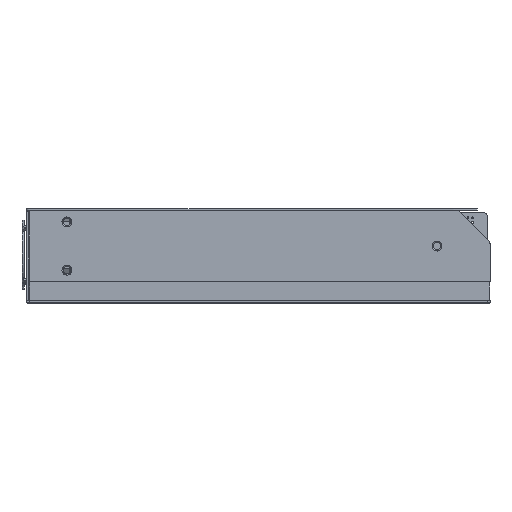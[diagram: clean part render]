
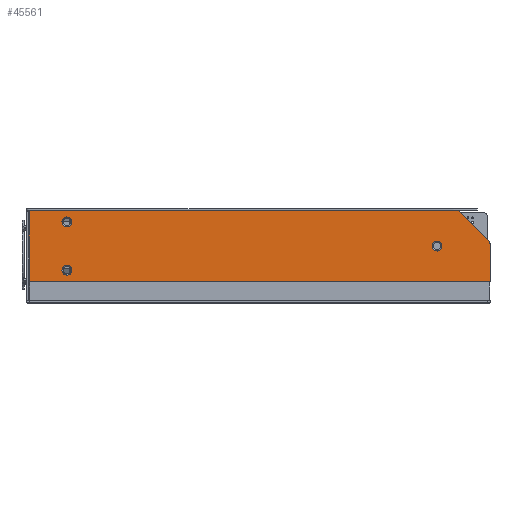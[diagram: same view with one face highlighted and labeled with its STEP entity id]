
A CAD part, top view. The second image highlights one B-rep face of the part: STEP entity #45561.
In plain terms, the highlighted planar face has unit normal (0, 0, 1).
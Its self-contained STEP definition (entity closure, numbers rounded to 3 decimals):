
#3691 = CARTESIAN_POINT ( 'NONE',  ( 177.1, 15.5, 2.5 ) ) ;
#3725 = DIRECTION ( 'NONE',  ( 0., 1., 0. ) ) ;
#4928 = FACE_BOUND ( 'NONE', #47507, .T. ) ;
#6755 = EDGE_CURVE ( 'NONE', #38557, #39024, #71240, .T. ) ;
#9057 = EDGE_CURVE ( 'NONE', #9460, #60802, #61001, .T. ) ;
#9460 = VERTEX_POINT ( 'NONE', #21484 ) ;
#9775 = CARTESIAN_POINT ( 'NONE',  ( 179.25, 15.5, 2.5 ) ) ;
#10669 = ORIENTED_EDGE ( 'NONE', *, *, #104457, .T. ) ;
#11988 = CARTESIAN_POINT ( 'NONE',  ( 200.1, 16.586, 2.5 ) ) ;
#13757 = VERTEX_POINT ( 'NONE', #42720 ) ;
#14792 = CARTESIAN_POINT ( 'NONE',  ( 14.25, 26., 2.5 ) ) ;
#15949 = EDGE_CURVE ( 'NONE', #13757, #79480, #89352, .T. ) ;
#16708 = DIRECTION ( 'NONE',  ( -1., 0., 0. ) ) ;
#16757 = DIRECTION ( 'NONE',  ( 0., 0., 1. ) ) ;
#17285 = CARTESIAN_POINT ( 'NONE',  ( 16.4, 5., 2.5 ) ) ;
#17515 = AXIS2_PLACEMENT_3D ( 'NONE', #3691, #97133, #50672 ) ;
#21484 = CARTESIAN_POINT ( 'NONE',  ( 174.95, 15.5, 2.5 ) ) ;
#22238 = DIRECTION ( 'NONE',  ( -1., 0., 0. ) ) ;
#22991 = EDGE_CURVE ( 'NONE', #58932, #71142, #70205, .T. ) ;
#24419 = CARTESIAN_POINT ( 'NONE',  ( 0., 0.2, 2.5 ) ) ;
#24487 = ORIENTED_EDGE ( 'NONE', *, *, #109388, .T. ) ;
#25096 = EDGE_LOOP ( 'NONE', ( #10669, #51766 ) ) ;
#25463 = EDGE_CURVE ( 'NONE', #105711, #51694, #81920, .T. ) ;
#31555 = CARTESIAN_POINT ( 'NONE',  ( 200.1, 0., 2.5 ) ) ;
#32996 = CARTESIAN_POINT ( 'NONE',  ( 14.25, 5., 2.5 ) ) ;
#33400 = DIRECTION ( 'NONE',  ( -1., 0., 0. ) ) ;
#35071 = EDGE_CURVE ( 'NONE', #111359, #38557, #89129, .T. ) ;
#35315 = LINE ( 'NONE', #92252, #120861 ) ;
#36197 = CIRCLE ( 'NONE', #99445, 2.15 ) ;
#38557 = VERTEX_POINT ( 'NONE', #89142 ) ;
#39024 = VERTEX_POINT ( 'NONE', #119874 ) ;
#40913 = CARTESIAN_POINT ( 'NONE',  ( 18.55, 26., 2.5 ) ) ;
#42650 = FACE_OUTER_BOUND ( 'NONE', #112981, .T. ) ;
#42720 = CARTESIAN_POINT ( 'NONE',  ( 18.55, 5., 2.5 ) ) ;
#45405 = ORIENTED_EDGE ( 'NONE', *, *, #70074, .T. ) ;
#45561 = ADVANCED_FACE ( 'NONE', ( #89727, #4928, #100218, #42650 ), #118155, .F. ) ;
#46940 = DIRECTION ( 'NONE',  ( 0., 0., -1. ) ) ;
#47507 = EDGE_LOOP ( 'NONE', ( #68245, #45405 ) ) ;
#50672 = DIRECTION ( 'NONE',  ( -1., 0., 0. ) ) ;
#51694 = VERTEX_POINT ( 'NONE', #40913 ) ;
#51766 = ORIENTED_EDGE ( 'NONE', *, *, #9057, .T. ) ;
#52840 = DIRECTION ( 'NONE',  ( 1., 0., 0. ) ) ;
#54545 = CARTESIAN_POINT ( 'NONE',  ( 200.1, 0.2, 2.5 ) ) ;
#56522 = DIRECTION ( 'NONE',  ( -1., 0., 0. ) ) ;
#57677 = AXIS2_PLACEMENT_3D ( 'NONE', #17285, #46940, #120051 ) ;
#57767 = DIRECTION ( 'NONE',  ( 0., 0., -1. ) ) ;
#58382 = EDGE_CURVE ( 'NONE', #71142, #111359, #68696, .T. ) ;
#58932 = VERTEX_POINT ( 'NONE', #93089 ) ;
#60115 = CIRCLE ( 'NONE', #105518, 2.15 ) ;
#60221 = ORIENTED_EDGE ( 'NONE', *, *, #113166, .T. ) ;
#60802 = VERTEX_POINT ( 'NONE', #9775 ) ;
#61001 = CIRCLE ( 'NONE', #17515, 2.15 ) ;
#61934 = DIRECTION ( 'NONE',  ( 0., 0., -1. ) ) ;
#65004 = CARTESIAN_POINT ( 'NONE',  ( 199.1, 16.586, 2.5 ) ) ;
#68245 = ORIENTED_EDGE ( 'NONE', *, *, #15949, .T. ) ;
#68696 = LINE ( 'NONE', #31555, #76141 ) ;
#68768 = DIRECTION ( 'NONE',  ( -1., 0., 0. ) ) ;
#69033 = ORIENTED_EDGE ( 'NONE', *, *, #58382, .T. ) ;
#70074 = EDGE_CURVE ( 'NONE', #79480, #13757, #36197, .T. ) ;
#70205 = LINE ( 'NONE', #24419, #103462 ) ;
#70799 = EDGE_CURVE ( 'NONE', #51694, #105711, #60115, .T. ) ;
#71142 = VERTEX_POINT ( 'NONE', #54545 ) ;
#71240 = LINE ( 'NONE', #80532, #101329 ) ;
#72365 = DIRECTION ( 'NONE',  ( 0., 0., -1. ) ) ;
#72444 = CARTESIAN_POINT ( 'NONE',  ( 16.4, 5., 2.5 ) ) ;
#73597 = DIRECTION ( 'NONE',  ( 0., -1., 0. ) ) ;
#76141 = VECTOR ( 'NONE', #3725, 1000. ) ;
#77936 = CARTESIAN_POINT ( 'NONE',  ( 177.1, 15.5, 2.5 ) ) ;
#78570 = ORIENTED_EDGE ( 'NONE', *, *, #35071, .T. ) ;
#79480 = VERTEX_POINT ( 'NONE', #32996 ) ;
#80532 = CARTESIAN_POINT ( 'NONE',  ( 200.1, 17., 2.5 ) ) ;
#81920 = CIRCLE ( 'NONE', #88108, 2.15 ) ;
#82399 = DIRECTION ( 'NONE',  ( -1., 0., 0. ) ) ;
#82990 = DIRECTION ( 'NONE',  ( -1., 0., 0. ) ) ;
#83136 = AXIS2_PLACEMENT_3D ( 'NONE', #65004, #16757, #82399 ) ;
#83409 = CARTESIAN_POINT ( 'NONE',  ( 0., 30.8, 2.5 ) ) ;
#84811 = ORIENTED_EDGE ( 'NONE', *, *, #70799, .T. ) ;
#87274 = AXIS2_PLACEMENT_3D ( 'NONE', #90936, #72365, #33400 ) ;
#88108 = AXIS2_PLACEMENT_3D ( 'NONE', #105899, #107141, #68768 ) ;
#88124 = CIRCLE ( 'NONE', #92090, 2.15 ) ;
#89129 = CIRCLE ( 'NONE', #83136, 1. ) ;
#89142 = CARTESIAN_POINT ( 'NONE',  ( 199.807, 17.293, 2.5 ) ) ;
#89352 = CIRCLE ( 'NONE', #57677, 2.15 ) ;
#89727 = FACE_BOUND ( 'NONE', #25096, .T. ) ;
#90936 = CARTESIAN_POINT ( 'NONE',  ( 0., 0., 2.5 ) ) ;
#92090 = AXIS2_PLACEMENT_3D ( 'NONE', #77936, #108225, #22238 ) ;
#92252 = CARTESIAN_POINT ( 'NONE',  ( 0., 30.8, 2.5 ) ) ;
#93089 = CARTESIAN_POINT ( 'NONE',  ( 0., 0.2, 2.5 ) ) ;
#96242 = VERTEX_POINT ( 'NONE', #83409 ) ;
#96741 = CARTESIAN_POINT ( 'NONE',  ( 16.4, 26., 2.5 ) ) ;
#97133 = DIRECTION ( 'NONE',  ( 0., 0., -1. ) ) ;
#98700 = VECTOR ( 'NONE', #73597, 1000. ) ;
#99445 = AXIS2_PLACEMENT_3D ( 'NONE', #72444, #61934, #16708 ) ;
#100218 = FACE_BOUND ( 'NONE', #121304, .T. ) ;
#101329 = VECTOR ( 'NONE', #118267, 1000. ) ;
#102436 = ORIENTED_EDGE ( 'NONE', *, *, #6755, .T. ) ;
#103462 = VECTOR ( 'NONE', #52840, 1000. ) ;
#104457 = EDGE_CURVE ( 'NONE', #60802, #9460, #88124, .T. ) ;
#105518 = AXIS2_PLACEMENT_3D ( 'NONE', #96741, #57767, #56522 ) ;
#105711 = VERTEX_POINT ( 'NONE', #14792 ) ;
#105899 = CARTESIAN_POINT ( 'NONE',  ( 16.4, 26., 2.5 ) ) ;
#107141 = DIRECTION ( 'NONE',  ( 0., 0., -1. ) ) ;
#108225 = DIRECTION ( 'NONE',  ( 0., 0., -1. ) ) ;
#109388 = EDGE_CURVE ( 'NONE', #96242, #58932, #118158, .T. ) ;
#111246 = ORIENTED_EDGE ( 'NONE', *, *, #25463, .T. ) ;
#111359 = VERTEX_POINT ( 'NONE', #11988 ) ;
#111426 = ORIENTED_EDGE ( 'NONE', *, *, #22991, .T. ) ;
#112981 = EDGE_LOOP ( 'NONE', ( #24487, #111426, #69033, #78570, #102436, #60221 ) ) ;
#113166 = EDGE_CURVE ( 'NONE', #39024, #96242, #35315, .T. ) ;
#118155 = PLANE ( 'NONE',  #87274 ) ;
#118158 = LINE ( 'NONE', #119389, #98700 ) ;
#118267 = DIRECTION ( 'NONE',  ( -0.707, 0.707, 0. ) ) ;
#119389 = CARTESIAN_POINT ( 'NONE',  ( 0., 0., 2.5 ) ) ;
#119874 = CARTESIAN_POINT ( 'NONE',  ( 186.3, 30.8, 2.5 ) ) ;
#120051 = DIRECTION ( 'NONE',  ( -1., 0., 0. ) ) ;
#120861 = VECTOR ( 'NONE', #82990, 1000. ) ;
#121304 = EDGE_LOOP ( 'NONE', ( #84811, #111246 ) ) ;
